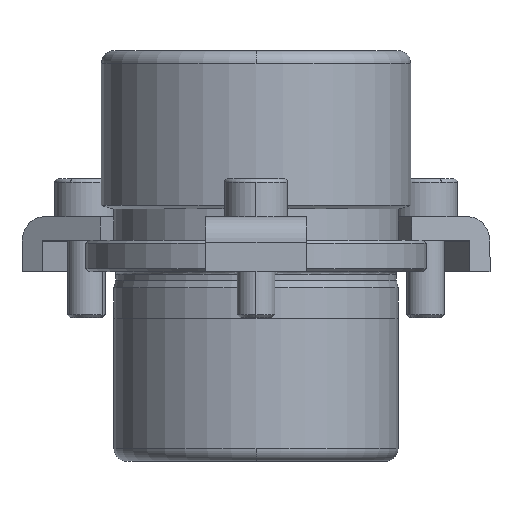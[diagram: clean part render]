
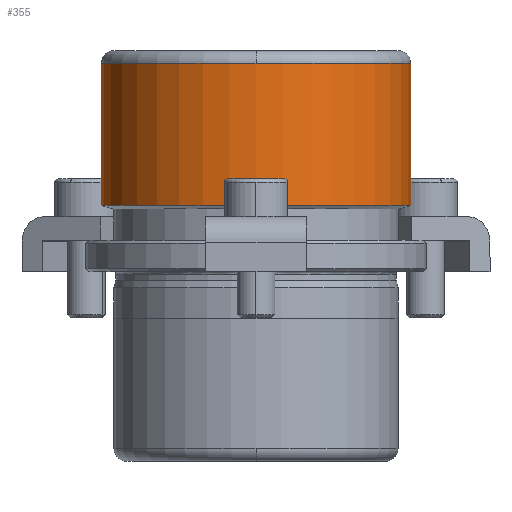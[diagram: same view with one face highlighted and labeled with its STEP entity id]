
A CAD part, front view. The second image highlights one B-rep face of the part: STEP entity #355.
In plain terms, the highlighted cylindrical face has radius 24.5 mm (diameter 49 mm), a partial arc.
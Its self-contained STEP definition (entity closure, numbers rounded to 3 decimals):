
#269=CARTESIAN_POINT('',(0.0,-24.5,33.));
#270=VERTEX_POINT('',#269);
#296=CARTESIAN_POINT('',(-24.5,0.,33.0));
#297=VERTEX_POINT('',#296);
#305=CARTESIAN_POINT('',(0.0,0.,33.0));
#306=DIRECTION('',(0.0,0.0,1.0));
#307=DIRECTION('',(1.0,0.0,0.0));
#308=AXIS2_PLACEMENT_3D('',#305,#306,#307);
#309=CIRCLE('',#308,24.5);
#310=EDGE_CURVE('',#297,#270,#309,.T.);
#315=CARTESIAN_POINT('',(0.0,0.,21.75));
#316=DIRECTION('',(0.0,0.,1.0));
#317=DIRECTION('',(1.0,0.0,0.0));
#318=AXIS2_PLACEMENT_3D('',#315,#316,#317);
#319=CYLINDRICAL_SURFACE('',#318,24.5);
#320=CARTESIAN_POINT('',(24.5,0.,33.0));
#321=VERTEX_POINT('',#320);
#322=CARTESIAN_POINT('',(24.5,0.,10.5));
#323=VERTEX_POINT('',#322);
#324=CARTESIAN_POINT('',(24.5,0.,33.0));
#325=DIRECTION('',(0.0,0.0,-1.0));
#326=VECTOR('',#325,22.5);
#327=LINE('',#324,#326);
#328=EDGE_CURVE('',#321,#323,#327,.T.);
#329=ORIENTED_EDGE('',*,*,#328,.F.);
#330=CARTESIAN_POINT('',(0.0,0.,33.0));
#331=DIRECTION('',(0.0,0.0,1.0));
#332=DIRECTION('',(1.0,0.0,0.0));
#333=AXIS2_PLACEMENT_3D('',#330,#331,#332);
#334=CIRCLE('',#333,24.5);
#335=EDGE_CURVE('',#270,#321,#334,.T.);
#336=ORIENTED_EDGE('',*,*,#335,.F.);
#337=ORIENTED_EDGE('',*,*,#310,.F.);
#338=CARTESIAN_POINT('',(-24.5,0.,10.5));
#339=VERTEX_POINT('',#338);
#340=CARTESIAN_POINT('',(-24.5,0.,33.0));
#341=DIRECTION('',(0.0,0.0,-1.0));
#342=VECTOR('',#341,22.5);
#343=LINE('',#340,#342);
#344=EDGE_CURVE('',#297,#339,#343,.T.);
#345=ORIENTED_EDGE('',*,*,#344,.T.);
#346=CARTESIAN_POINT('',(0.0,0.,10.5));
#347=DIRECTION('',(0.0,0.0,1.0));
#348=DIRECTION('',(1.0,0.0,0.0));
#349=AXIS2_PLACEMENT_3D('',#346,#347,#348);
#350=CIRCLE('',#349,24.5);
#351=EDGE_CURVE('',#339,#323,#350,.T.);
#352=ORIENTED_EDGE('',*,*,#351,.T.);
#353=EDGE_LOOP('',(#329,#336,#337,#345,#352));
#354=FACE_OUTER_BOUND('',#353,.T.);
#355=ADVANCED_FACE('',(#354),#319,.T.);
